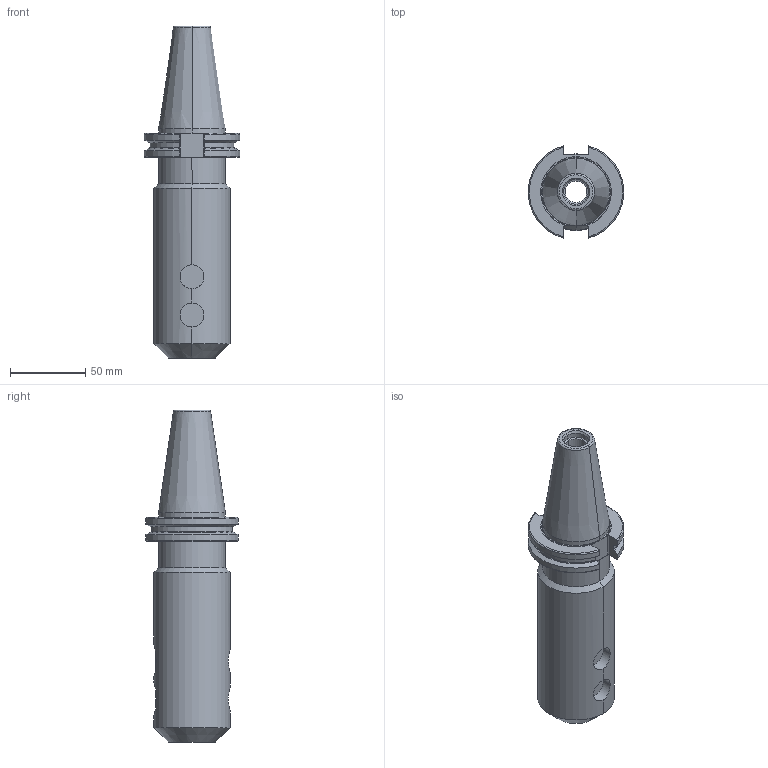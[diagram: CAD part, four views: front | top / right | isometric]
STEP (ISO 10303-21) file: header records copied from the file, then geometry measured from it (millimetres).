
FILE_DESCRIPTION (( 'STEP AP214' ), '1' );
FILE_NAME ('RC4EM1000600.STEP', '2019-02-08T14:22:15', ( '' ), ( '' ), 'SwSTEP 2.0', 'SolidWorks 2019', '' );
FILE_SCHEMA (( 'AUTOMOTIVE_DESIGN' ));
Length unit declared in the file: inch
Products named in the file (1): RC4EM1000600
Bounding box: 63.26 x 61.35 x 220.65 mm (x, y, z)
Volume: 286095.8 mm3; surface area: 52600.9 mm2
Topology: 1 solids, 1 shells, 147 faces, 378 edges, 231 vertices
Faces by surface type: plane 50, cone 43, cylinder 42, torus 12
Entity records: 5319 total; most frequent: CARTESIAN_POINT 1709, ORIENTED_EDGE 744, DIRECTION 725, EDGE_CURVE 372, AXIS2_PLACEMENT_3D 281, VERTEX_POINT 231, LINE 163, VECTOR 163
